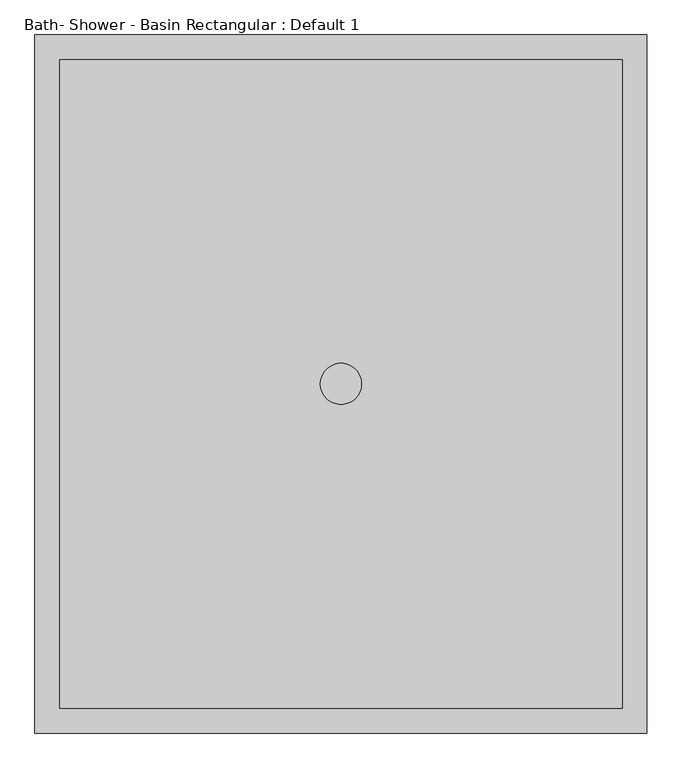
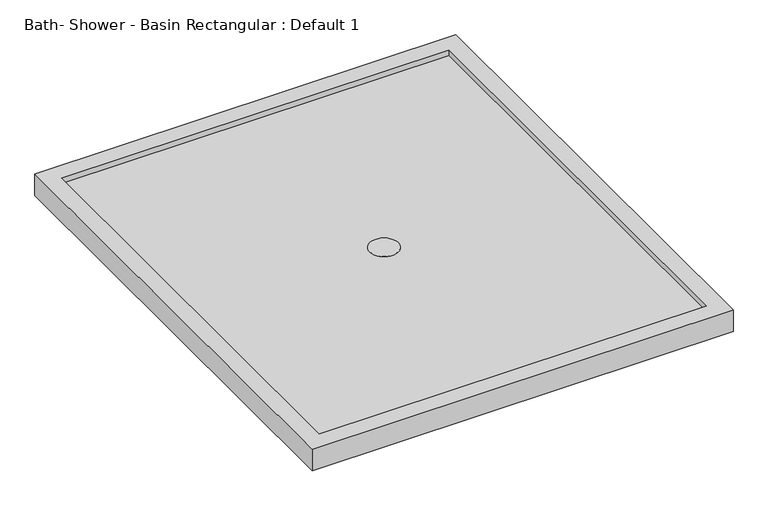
"""IFC4 building model written with IfcOpenShell, lengths in millimetres: flow terminal geometry, Bath- Shower - Basin Rectangular : Default 1."""

from ifc_helpers import new_model, si_unit, point, frame_2d, origin, origin_with_axes, place, context, project, spatial, circle_curve, trimmed, segment, composite_curve, outline, extrude, faceted_brep, source, transform, mapped, element, save


def bath_shower_basin_rectangular_default_1_5c73739b(model_context):
    return source(origin(), model_context, "Body", "SolidModel", [
        extrude(outline(composite_curve([segment(trimmed(circle_curve(frame_2d((0.1, 0.15)), 31.75), [point((-31.65, 0.15))], [point((31.85, 0.15))], False, "CARTESIAN"), True, "CONTINUOUS"), segment(trimmed(circle_curve(frame_2d((0.1, 0.15)), 31.75), [point((31.85, 0.15))], [point((-31.65, 0.15))], False, "CARTESIAN"), True, "CONTINUOUS")], self_intersect=False)), origin_with_axes(), (0.0, 0.0, 1.0), 38.1),
        faceted_brep([(473.075, 539.75, 50.8), (-473.075, 539.75, 50.8), (-473.075, -539.75, 50.8), (473.075, -539.75, 50.8), (-434.975, 501.65, 50.8), (434.975, 501.65, 50.8), (434.975, -501.65, 50.8), (-434.975, -501.65, 50.8), (473.075, 539.75, 0.0), (473.075, -539.75, 0.0), (-473.075, -539.75, 0.0), (-473.075, 539.75, 0.0), (434.975, 501.65, 38.1), (-434.975, 501.65, 38.1), (-434.975, -501.65, 38.1), (434.975, -501.65, 38.1)], [[[0, 1, 2, 3], [4, 5, 6, 7]], [[8, 9, 10, 11]], [[1, 0, 8, 11]], [[2, 1, 11, 10]], [[3, 2, 10, 9]], [[0, 3, 9, 8]], [[12, 13, 14, 15]], [[13, 12, 5, 4]], [[14, 13, 4, 7]], [[15, 14, 7, 6]], [[12, 15, 6, 5]]]),
    ])


if __name__ == "__main__":
    model = new_model("IFC4")
    model_context = context("Model", 3, world=origin())
    ifc_project = project(units=[si_unit("LENGTHUNIT", "METRE", prefix="MILLI")], contexts=[model_context])
    site = spatial("IfcSite", under=ifc_project)
    building = spatial("IfcBuilding", under=site)
    placement = place(None, origin())
    bath_shower_basin_rectangular_default_1_shape = bath_shower_basin_rectangular_default_1_5c73739b(model_context)
    element("IfcFlowTerminal", 1, ObjectType="Bath- Shower - Basin Rectangular : Default 1", at=placement, inside=building, context=model_context, shape_type="MappedRepresentation", body=[
        mapped(bath_shower_basin_rectangular_default_1_shape, transform((0.0, 0.0, 0.0), x_axis=(1.0, 0.0, 0.0), y_axis=(0.0, 1.0, 0.0), z_axis=(0.0, 0.0, 1.0))),
    ])
    save(model, "model.ifc")
